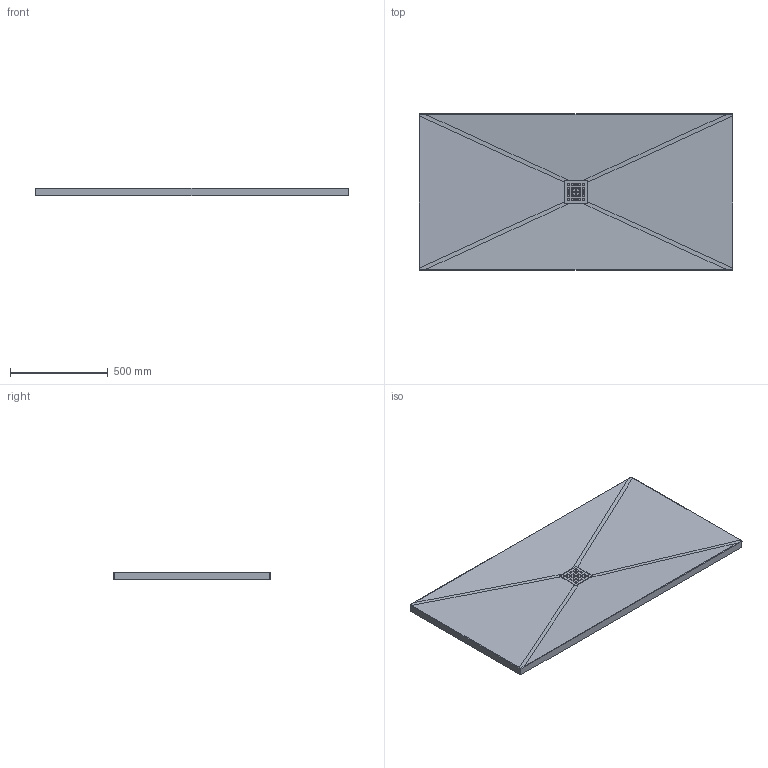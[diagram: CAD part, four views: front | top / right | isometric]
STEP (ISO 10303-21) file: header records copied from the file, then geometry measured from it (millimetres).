
FILE_DESCRIPTION (( 'STEP AP214' ), '1' );
FILE_NAME ('TRENT 160x80.STEP', '2024-05-13T12:01:53', ( '' ), ( '' ), 'SwSTEP 2.0', 'SolidWorks 2021', '' );
FILE_SCHEMA (( 'AUTOMOTIVE_DESIGN' ));
Length unit declared in the file: millimetre
Products named in the file (1): TRENT 160x80
Bounding box: 1600 x 800 x 40.07 mm (x, y, z)
Volume: 17957658.8 mm3; surface area: 3129477 mm2
Topology: 3 solids, 3 shells, 833 faces, 1993 edges, 1151 vertices
Faces by surface type: cylinder 365, bspline 291, plane 177
Full cylindrical faces by diameter (mm): 66 x1
Entity records: 38364 total; most frequent: CARTESIAN_POINT 21506, ORIENTED_EDGE 3974, DIRECTION 2508, EDGE_CURVE 1987, VERTEX_POINT 1151, VECTOR 928, LINE 928, EDGE_LOOP 902
